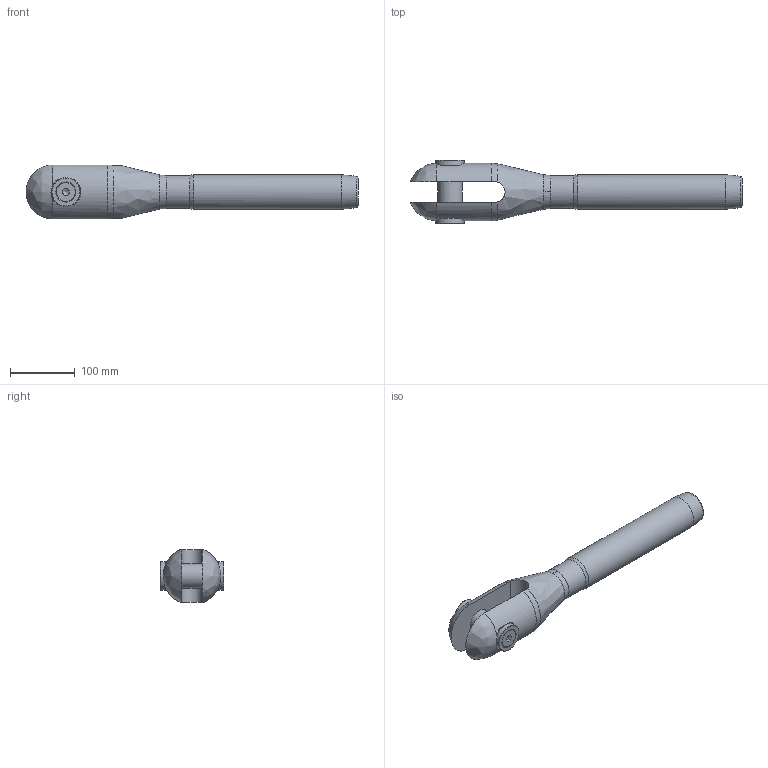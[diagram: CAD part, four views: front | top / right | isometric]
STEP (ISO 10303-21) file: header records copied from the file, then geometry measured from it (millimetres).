
FILE_DESCRIPTION(/* description */ (''),/* implementation_level */ '2;1');
FILE_NAME(/* name */ 'MAC 28_42CrMo4',/* time_stamp */ '2023-05-23T16:55:19+02:00',/* author */ (''),/* organization */ (''),/* preprocessor_version */ 'ST-DEVELOPER v16.5',/* originating_system */ 'Rhino 7.22',/* authorisation */ '');
FILE_SCHEMA (('CONFIG_CONTROL_DESIGN'));
Length unit declared in the file: millimetre
Products named in the file (1): Document
Bounding box: 511.46 x 97.5 x 83.05 mm (x, y, z)
Volume: 1378065.4 mm3; surface area: 148754.3 mm2
Topology: 6 solids, 6 shells, 75 faces, 210 edges, 145 vertices
Faces by surface type: plane 29, bspline 24, cylinder 22
Full cylindrical faces by diameter (mm): 13.835 x2, 16 x2, 17 x2, 29.01 x2, 38 x1, 40 x2, 44 x2, 50.8 x1, 53.4 x1
Entity records: 3162 total; most frequent: CARTESIAN_POINT 1815, ORIENTED_EDGE 412, EDGE_CURVE 206, VERTEX_POINT 145, EDGE_LOOP 85, B_SPLINE_CURVE_WITH_KNOTS 84, ADVANCED_FACE 75, FACE_OUTER_BOUND 75
